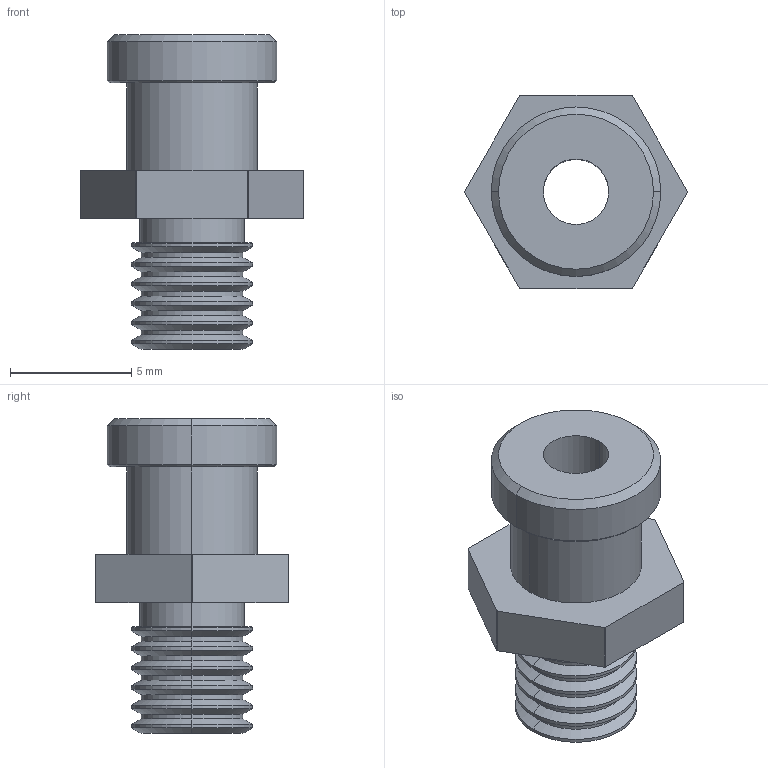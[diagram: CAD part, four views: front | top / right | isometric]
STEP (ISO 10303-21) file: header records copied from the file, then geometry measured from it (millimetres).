
FILE_DESCRIPTION (( 'STEP AP214' ), '1' );
FILE_NAME ('VM-11-M5.STEP', '2023-03-06T01:55:00', ( 'Windows User' ), ( 'P R C' ), 'SwSTEP 2.0', 'SolidWorks 2019', '' );
FILE_SCHEMA (( 'AUTOMOTIVE_DESIGN' ));
Length unit declared in the file: millimetre
Products named in the file (1): VM-11-M5
Bounding box: 9.2 x 8 x 13 mm (x, y, z)
Volume: 282.2 mm3; surface area: 512.8 mm2
Topology: 1 solids, 1 shells, 79 faces, 169 edges, 96 vertices
Faces by surface type: cylinder 37, cone 30, plane 12
Entity records: 2145 total; most frequent: DIRECTION 413, CARTESIAN_POINT 345, ORIENTED_EDGE 338, EDGE_CURVE 169, AXIS2_PLACEMENT_3D 164, VERTEX_POINT 96, EDGE_LOOP 85, VECTOR 85
